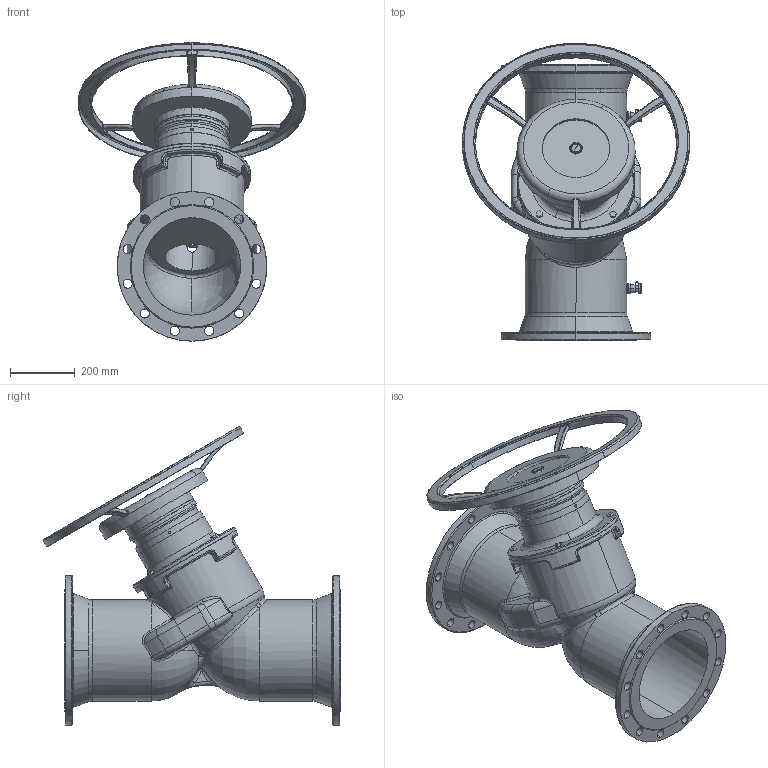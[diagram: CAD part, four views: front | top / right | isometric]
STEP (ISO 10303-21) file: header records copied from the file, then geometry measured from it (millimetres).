
FILE_DESCRIPTION (( 'STEP AP203' ), '1' );
FILE_NAME ('RC4240-DN300.STEP', '2017-04-23T09:07:52', ( 'User' ), ( 'shendu' ), 'SwSTEP 2.0', 'SolidWorks 2015', '' );
FILE_SCHEMA (( 'CONFIG_CONTROL_DESIGN' ));
Length unit declared in the file: millimetre
Products named in the file (1): RC4240-DN300
Bounding box: 699.98 x 915.38 x 918.09 mm (x, y, z)
Volume: 34596554.6 mm3; surface area: 4044007 mm2
Topology: 28 solids, 28 shells, 863 faces, 2091 edges, 1250 vertices
Faces by surface type: cylinder 281, bspline 217, cone 190, plane 128, torus 47
Entity records: 59953 total; most frequent: CARTESIAN_POINT 41350, ORIENTED_EDGE 4108, DIRECTION 3444, EDGE_CURVE 2054, AXIS2_PLACEMENT_3D 1476, VERTEX_POINT 1250, EDGE_LOOP 988, ADVANCED_FACE 863
